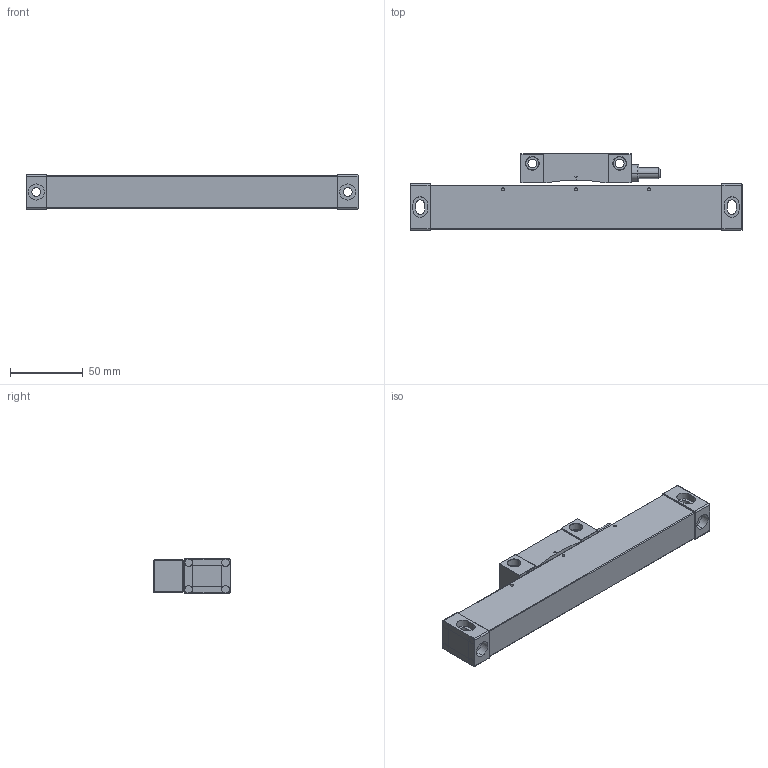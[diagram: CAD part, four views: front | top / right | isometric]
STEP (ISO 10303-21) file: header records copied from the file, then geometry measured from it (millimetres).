
FILE_DESCRIPTION (( 'STEP AP214' ), '1' );
FILE_NAME ('JCXE100-W5.step', '2023-05-18T05:18:22', ( 'Windows 蚚誧' ), ( '' ), 'SwSTEP 2.0', 'SolidWorks 2016', '' );
FILE_SCHEMA (( 'AUTOMOTIVE_DESIGN' ));
Length unit declared in the file: millimetre
Products named in the file (1): JCXE100-W5
Bounding box: 228 x 52.5 x 23.5 mm (x, y, z)
Volume: 172552.8 mm3; surface area: 37254.2 mm2
Topology: 2 solids, 2 shells, 307 faces, 756 edges, 466 vertices
Faces by surface type: cylinder 138, plane 134, torus 22, sphere 11, cone 2
Entity records: 9260 total; most frequent: CARTESIAN_POINT 1860, DIRECTION 1588, ORIENTED_EDGE 1486, EDGE_CURVE 743, AXIS2_PLACEMENT_3D 596, VERTEX_POINT 464, VECTOR 396, LINE 396
